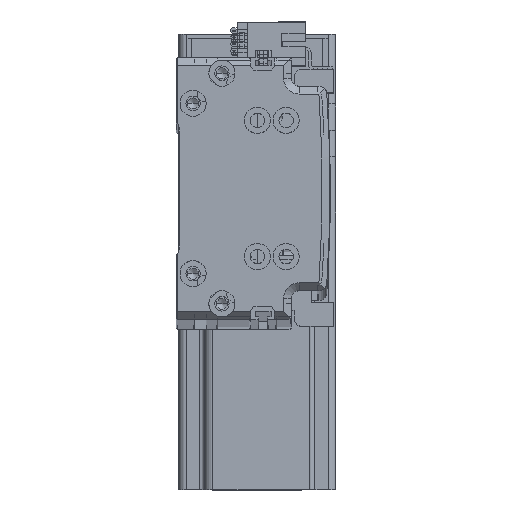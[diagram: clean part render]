
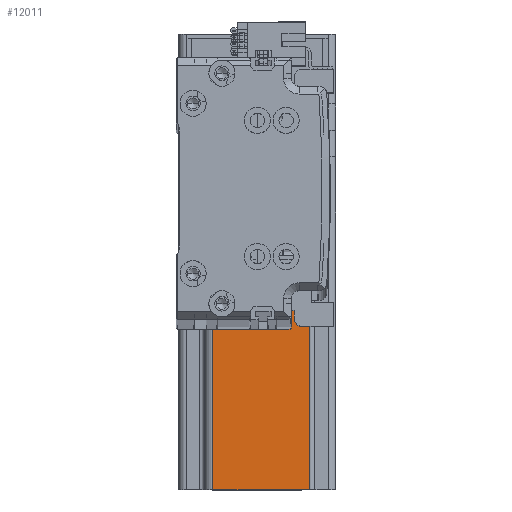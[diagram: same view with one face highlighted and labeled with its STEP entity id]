
A CAD part, top view. The second image highlights one B-rep face of the part: STEP entity #12011.
In plain terms, the highlighted planar face has unit normal (0, 0, 1) as drawn and (-1, 0, 0) by its records, which use the part's own axes.
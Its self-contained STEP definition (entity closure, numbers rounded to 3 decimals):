
#166 = CARTESIAN_POINT ( 'NONE',  ( -30., 20., 137. ) ) ;
#1397 = LINE ( 'NONE', #18134, #55495 ) ;
#2506 = ORIENTED_EDGE ( 'NONE', *, *, #5424, .T. ) ;
#3373 = VECTOR ( 'NONE', #59282, 1000. ) ;
#5421 = DIRECTION ( 'NONE',  ( 0., 0., 1. ) ) ;
#5424 = EDGE_CURVE ( 'NONE', #49529, #12062, #1397, .T. ) ;
#5827 = DIRECTION ( 'NONE',  ( 0., -1., 0. ) ) ;
#7584 = DIRECTION ( 'NONE',  ( 0., 1., 0. ) ) ;
#8403 = ORIENTED_EDGE ( 'NONE', *, *, #25863, .T. ) ;
#8576 = CARTESIAN_POINT ( 'NONE',  ( -30., -17., 137. ) ) ;
#10084 = VECTOR ( 'NONE', #11628, 1000. ) ;
#10170 = LINE ( 'NONE', #21271, #24154 ) ;
#11628 = DIRECTION ( 'NONE',  ( 0., -1., 0. ) ) ;
#12011 = ADVANCED_FACE ( 'NONE', ( #54408 ), #64096, .F. ) ;
#12062 = VERTEX_POINT ( 'NONE', #17642 ) ;
#13688 = VERTEX_POINT ( 'NONE', #59448 ) ;
#15663 = EDGE_CURVE ( 'NONE', #12062, #53676, #52142, .T. ) ;
#16595 = DIRECTION ( 'NONE',  ( 0., 0., -1. ) ) ;
#17136 = CARTESIAN_POINT ( 'NONE',  ( -30., 27., 0. ) ) ;
#17642 = CARTESIAN_POINT ( 'NONE',  ( -30., 27., 10. ) ) ;
#18134 = CARTESIAN_POINT ( 'NONE',  ( -30., 30., 10. ) ) ;
#18833 = ORIENTED_EDGE ( 'NONE', *, *, #62592, .T. ) ;
#20160 = VECTOR ( 'NONE', #5827, 1000. ) ;
#20519 = EDGE_CURVE ( 'NONE', #60998, #44668, #39605, .T. ) ;
#21271 = CARTESIAN_POINT ( 'NONE',  ( -30., -27., 137. ) ) ;
#21672 = CARTESIAN_POINT ( 'NONE',  ( -30., -30., 137. ) ) ;
#23169 = ORIENTED_EDGE ( 'NONE', *, *, #50462, .T. ) ;
#24154 = VECTOR ( 'NONE', #5421, 1000. ) ;
#24314 = VECTOR ( 'NONE', #16595, 1000. ) ;
#25863 = EDGE_CURVE ( 'NONE', #53676, #13688, #57979, .T. ) ;
#26935 = ORIENTED_EDGE ( 'NONE', *, *, #66725, .F. ) ;
#27722 = CARTESIAN_POINT ( 'NONE',  ( -30., -30., 137. ) ) ;
#27960 = CARTESIAN_POINT ( 'NONE',  ( -30., -17., 137. ) ) ;
#28499 = CARTESIAN_POINT ( 'NONE',  ( -30., -30., 0. ) ) ;
#28524 = VECTOR ( 'NONE', #65103, 1000. ) ;
#29136 = DIRECTION ( 'NONE',  ( 0., 0., 1. ) ) ;
#29293 = AXIS2_PLACEMENT_3D ( 'NONE', #27722, #64326, #32971 ) ;
#30942 = VERTEX_POINT ( 'NONE', #166 ) ;
#32971 = DIRECTION ( 'NONE',  ( 0., 0., -1. ) ) ;
#33641 = EDGE_CURVE ( 'NONE', #30942, #51113, #35693, .T. ) ;
#35693 = LINE ( 'NONE', #21672, #20160 ) ;
#39439 = CARTESIAN_POINT ( 'NONE',  ( -30., 20., 10. ) ) ;
#39605 = LINE ( 'NONE', #58548, #10084 ) ;
#39992 = ORIENTED_EDGE ( 'NONE', *, *, #20519, .F. ) ;
#41198 = ORIENTED_EDGE ( 'NONE', *, *, #33641, .F. ) ;
#43124 = CARTESIAN_POINT ( 'NONE',  ( -30., 27., 137. ) ) ;
#44096 = VECTOR ( 'NONE', #29136, 1000. ) ;
#44668 = VERTEX_POINT ( 'NONE', #54817 ) ;
#48998 = CARTESIAN_POINT ( 'NONE',  ( -30., -17., 10. ) ) ;
#49529 = VERTEX_POINT ( 'NONE', #64834 ) ;
#50462 = EDGE_CURVE ( 'NONE', #13688, #44668, #10170, .T. ) ;
#50938 = ORIENTED_EDGE ( 'NONE', *, *, #15663, .T. ) ;
#51113 = VERTEX_POINT ( 'NONE', #8576 ) ;
#52142 = LINE ( 'NONE', #43124, #24314 ) ;
#53676 = VERTEX_POINT ( 'NONE', #17136 ) ;
#54408 = FACE_OUTER_BOUND ( 'NONE', #56590, .T. ) ;
#54817 = CARTESIAN_POINT ( 'NONE',  ( -30., -27., 10. ) ) ;
#55495 = VECTOR ( 'NONE', #7584, 1000. ) ;
#56590 = EDGE_LOOP ( 'NONE', ( #39992, #18833, #41198, #26935, #2506, #50938, #8403, #23169 ) ) ;
#57422 = LINE ( 'NONE', #27960, #3373 ) ;
#57979 = LINE ( 'NONE', #28499, #28524 ) ;
#58548 = CARTESIAN_POINT ( 'NONE',  ( -30., -30., 10. ) ) ;
#59282 = DIRECTION ( 'NONE',  ( 0., 0., 1. ) ) ;
#59448 = CARTESIAN_POINT ( 'NONE',  ( -30., -27., 0. ) ) ;
#59657 = LINE ( 'NONE', #39439, #44096 ) ;
#60998 = VERTEX_POINT ( 'NONE', #48998 ) ;
#62592 = EDGE_CURVE ( 'NONE', #60998, #51113, #57422, .T. ) ;
#64096 = PLANE ( 'NONE',  #29293 ) ;
#64326 = DIRECTION ( 'NONE',  ( 1., 0., 0. ) ) ;
#64834 = CARTESIAN_POINT ( 'NONE',  ( -30., 20., 10. ) ) ;
#65103 = DIRECTION ( 'NONE',  ( 0., -1., 0. ) ) ;
#66725 = EDGE_CURVE ( 'NONE', #49529, #30942, #59657, .T. ) ;
